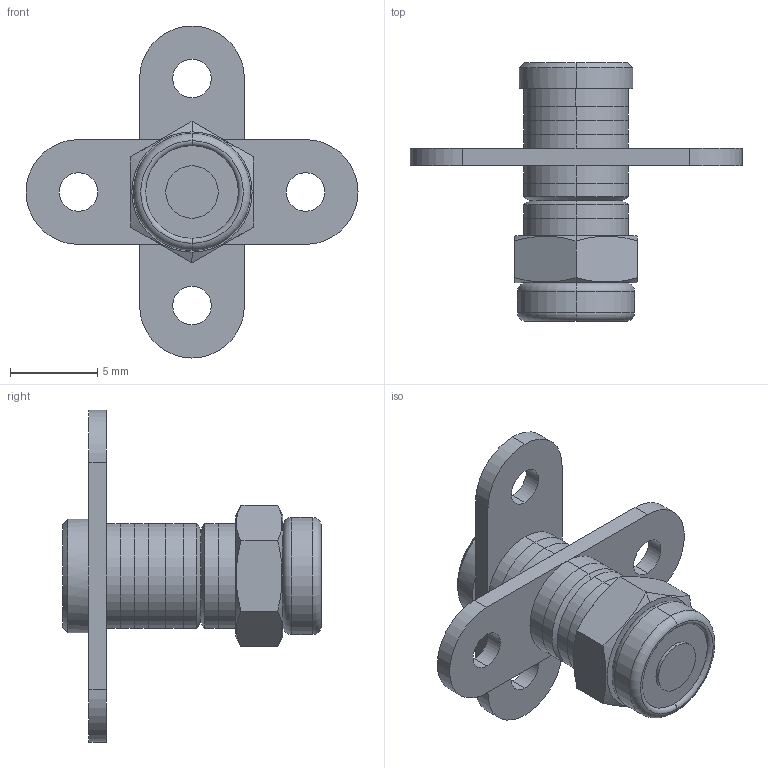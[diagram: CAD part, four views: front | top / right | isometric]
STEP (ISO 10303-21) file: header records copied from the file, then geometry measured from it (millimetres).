
FILE_DESCRIPTION (( 'STEP AP203' ), '1' );
FILE_NAME ('XG11-058.STEP', '2025-07-04T06:01:05', ( '微软用户' ), ( '微软中国' ), 'SwSTEP 2.0', 'SolidWorks 2024', '' );
FILE_SCHEMA (( 'CONFIG_CONTROL_DESIGN' ));
Length unit declared in the file: millimetre
Products named in the file (1): XG11-058
Bounding box: 19 x 14.8 x 19 mm (x, y, z)
Volume: 611.5 mm3; surface area: 1081.5 mm2
Topology: 7 solids, 7 shells, 85 faces, 177 edges, 108 vertices
Faces by surface type: plane 36, cylinder 33, cone 10, torus 6
Entity records: 2414 total; most frequent: CARTESIAN_POINT 463, DIRECTION 431, ORIENTED_EDGE 354, AXIS2_PLACEMENT_3D 180, EDGE_CURVE 177, VERTEX_POINT 108, EDGE_LOOP 95, CIRCLE 94
